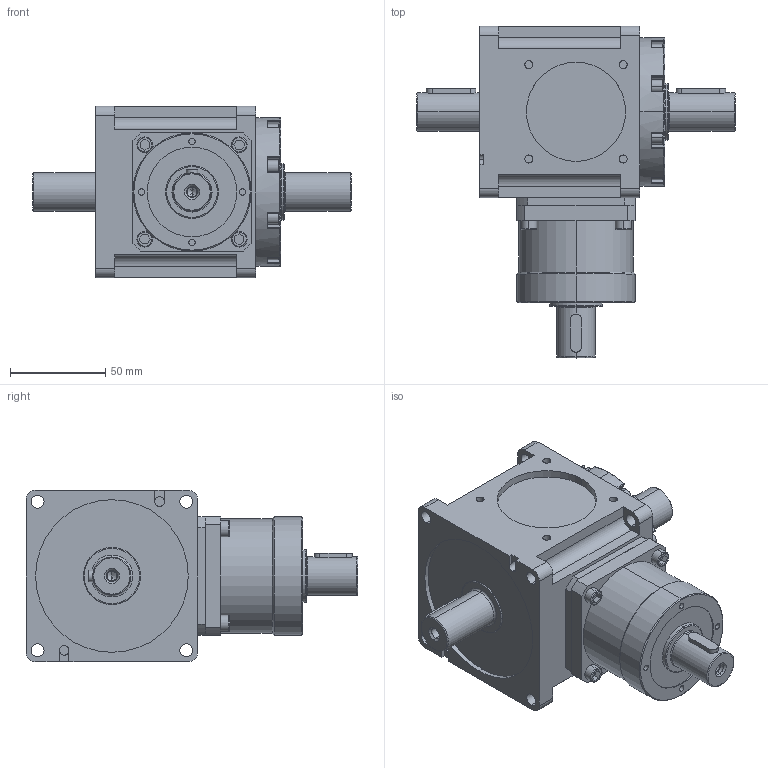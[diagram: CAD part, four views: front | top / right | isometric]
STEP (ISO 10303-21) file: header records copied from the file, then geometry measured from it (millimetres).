
FILE_DESCRIPTION (( 'STEP AP214' ), '1' );
FILE_NAME ('CCT090A-002-2P.STEP', '2025-06-03T02:25:50', ( '微软用户' ), ( '微软中国' ), 'SwSTEP 2.0', 'SolidWorks 2024', '' );
FILE_SCHEMA (( 'AUTOMOTIVE_DESIGN' ));
Length unit declared in the file: millimetre
Products named in the file (3): CCW090A-002-2P箱体; CCW090A输入模块; CCT090A-002-2P
Assembly tree (2 placements, depth 2):
  CCT090A-002-2P
    CCW090A-002-2P箱体
    CCW090A输入模块
Bounding box: 167 x 174 x 90 mm (x, y, z)
Volume: 846768.9 mm3; surface area: 87172.1 mm2
Topology: 2 solids, 2 shells, 506 faces, 1197 edges, 750 vertices
Faces by surface type: plane 213, cylinder 202, torus 51, cone 20, sphere 20
Entity records: 14757 total; most frequent: DIRECTION 2715, CARTESIAN_POINT 2656, ORIENTED_EDGE 2350, EDGE_CURVE 1175, AXIS2_PLACEMENT_3D 1045, VERTEX_POINT 742, LINE 625, VECTOR 625
